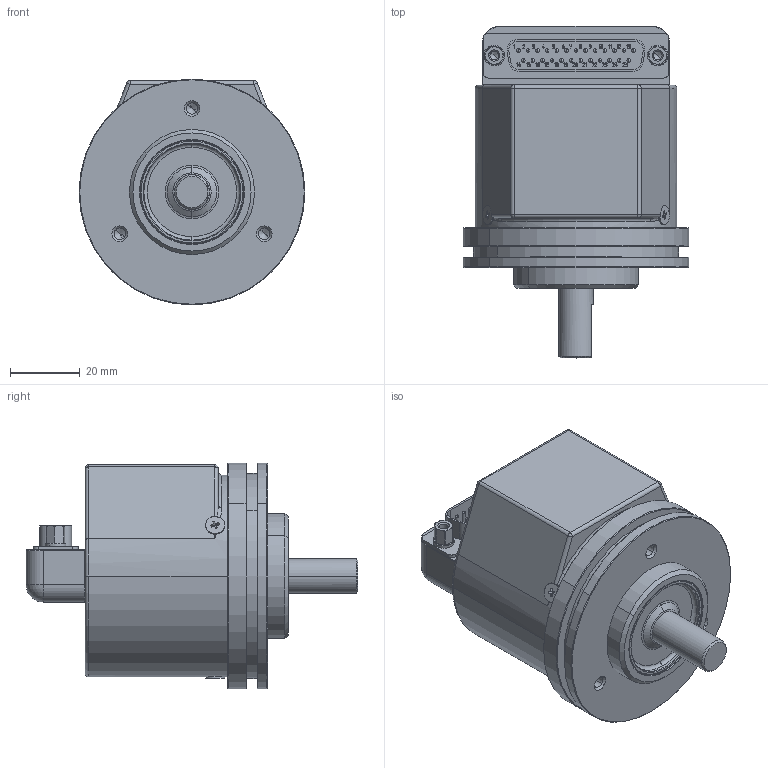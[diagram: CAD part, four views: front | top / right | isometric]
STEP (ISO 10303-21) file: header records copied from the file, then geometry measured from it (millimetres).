
FILE_DESCRIPTION (( 'STEP AP214' ), '1' );
FILE_NAME ('MS13xxR.STEP', '2026-06-08T10:12:55', ( '' ), ( '' ), 'SwSTEP 2.0', 'SolidWorks 2019', '' );
FILE_SCHEMA (( 'AUTOMOTIVE_DESIGN' ));
Length unit declared in the file: millimetre
Products named in the file (1): MS13xxR
Bounding box: 65 x 95.5 x 65 mm (x, y, z)
Volume: 96235.5 mm3; surface area: 43542.5 mm2
Topology: 4 solids, 9 shells, 2770 faces, 7306 edges, 4716 vertices
Faces by surface type: plane 1347, cylinder 771, bspline 376, cone 180, torus 86, sphere 10
Entity records: 127191 total; most frequent: CARTESIAN_POINT 29804, ORIENTED_EDGE 14512, DIRECTION 12912, EDGE_CURVE 7256, VERTEX_POINT 4716, LINE 4478, VECTOR 4478, AXIS2_PLACEMENT_3D 4217
